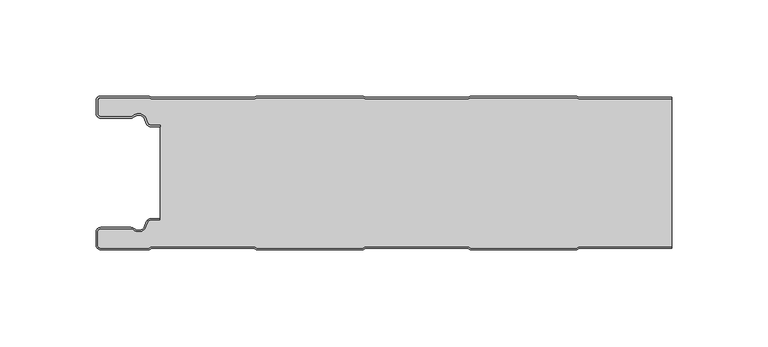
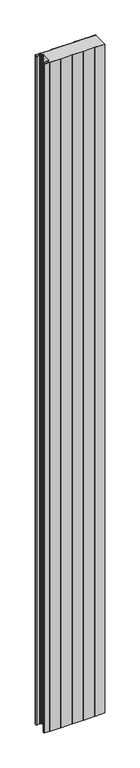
"""IFC4 building model written with IfcOpenShell, lengths in millimetres: plate geometry, ACH_Panel-Frigorífico_PUR-PIR : ACH_Panel-Frigorífico-PIR_80mm."""

from ifc_helpers import new_model, si_unit, point, frame_2d, origin, origin_with_axes, place, context, project, spatial, polyline, circle_curve, trimmed, segment, composite_curve, outline, extrude, source, transform, mapped, element, save


def plate_ee1a2d1a(model_context):
    return source(origin(), model_context, "Body", "SweptSolid", [
        extrude(outline(composite_curve([segment(trimmed(circle_curve(frame_2d((-147.483016, -9.0180361)), 2.50501), [point((-147.483016, -11.5230461))], [point((-149.9880261, -9.0180361))], False, "CARTESIAN"), True, "CONTINUOUS"), segment(polyline([(-149.9880261, -9.0180361), (-149.9880261, -2.50501)]), True, "CONTINUOUS"), segment(trimmed(circle_curve(frame_2d((-147.483016, -2.50501)), 2.50501), [point((-149.9880261, -2.50501))], [point((-147.483016, 0.0))], False, "CARTESIAN"), True, "CONTINUOUS"), segment(polyline([(-147.483016, 0.0), (-122.1983267, 0.0), (-121.016214, -0.6012024), (-67.6271727, -0.6012024), (-66.44506, 0.0), (-10.8656614, 0.0), (-9.6835487, -0.6012024), (43.7054926, -0.6012024), (44.8876053, 0.0), (100.4670039, 0.0), (101.6491166, -0.6012024), (149.9880261, -0.6012024), (149.9880261, -1.4012024), (101.4573702, -1.4012024), (100.2752576, -0.8), (45.0793517, -0.8), (43.897239, -1.4012024), (-9.8752951, -1.4012024), (-11.0574078, -0.8), (-66.2533137, -0.8), (-67.4354264, -1.4012024), (-121.2079604, -1.4012024), (-122.3900731, -0.8), (-147.483016, -0.8)]), True, "CONTINUOUS"), segment(trimmed(circle_curve(frame_2d((-147.483016, -2.50501)), 1.70501), [point((-147.483016, -0.8))], [point((-149.1880261, -2.50501))], True, "CARTESIAN"), True, "CONTINUOUS"), segment(polyline([(-149.1880261, -2.50501), (-149.1880261, -9.0180361)]), True, "CONTINUOUS"), segment(trimmed(circle_curve(frame_2d((-147.483016, -9.0180361)), 1.70501), [point((-149.1880261, -9.0180361))], [point((-147.483016, -10.7230461))], True, "CARTESIAN"), True, "CONTINUOUS"), segment(polyline([(-147.483016, -10.7230461), (-131.8053543, -10.7230461)]), True, "CONTINUOUS"), segment(trimmed(circle_curve(frame_2d((-131.8053543, -9.0180361)), 1.70501), [point((-131.8053543, -10.7230461))], [point((-130.6775962, -10.2967936))], True, "CARTESIAN"), True, "CONTINUOUS"), segment(trimmed(circle_curve(frame_2d((-127.8287742, -13.5270541)), 4.307014), [point((-130.6775962, -10.2967936))], [point((-123.7815049, -12.0539686))], False, "CARTESIAN"), True, "CONTINUOUS"), segment(polyline([(-123.7815049, -12.0539686), (-123.0330972, -14.1102019)]), True, "CONTINUOUS"), segment(trimmed(circle_curve(frame_2d((-121.4309118, -13.5270541)), 1.70501), [point((-123.0330972, -14.1102019))], [point((-121.4309118, -15.2320641))], True, "CARTESIAN"), True, "CONTINUOUS"), segment(polyline([(-121.4309118, -15.2320641), (-116.4208918, -15.2320641), (-116.4208918, -16.0320641), (-121.4309118, -16.0320641)]), True, "CONTINUOUS"), segment(trimmed(circle_curve(frame_2d((-121.4309118, -13.5270541)), 2.50501), [point((-121.4309118, -16.0320641))], [point((-123.7848513, -14.383818))], False, "CARTESIAN"), True, "CONTINUOUS"), segment(polyline([(-123.7848513, -14.383818), (-124.533259, -12.3275847)]), True, "CONTINUOUS"), segment(trimmed(circle_curve(frame_2d((-127.8287742, -13.5270541)), 3.507014), [point((-124.533259, -12.3275847))], [point((-130.1484459, -10.8967936))], True, "CARTESIAN"), True, "CONTINUOUS"), segment(trimmed(circle_curve(frame_2d((-131.8053543, -9.0180361)), 2.50501), [point((-130.1484459, -10.8967936))], [point((-131.8053543, -11.5230461))], False, "CARTESIAN"), True, "CONTINUOUS"), segment(polyline([(-131.8053543, -11.5230461), (-147.483016, -11.5230461)]), True, "CONTINUOUS")], self_intersect=False)), origin_with_axes(), (0.0, 0.0, 1.0), 3500.0),
        extrude(outline(composite_curve([segment(trimmed(circle_curve(frame_2d((-121.4309118, -13.5270541)), 1.70501), [point((-121.4309118, -15.2320641))], [point((-123.0330972, -14.1102019))], False, "CARTESIAN"), True, "CONTINUOUS"), segment(polyline([(-123.0330972, -14.1102019), (-123.7815049, -12.0539686)]), True, "CONTINUOUS"), segment(trimmed(circle_curve(frame_2d((-127.8287742, -13.5270541)), 4.307014), [point((-123.7815049, -12.0539686))], [point((-130.6775962, -10.2967936))], True, "CARTESIAN"), True, "CONTINUOUS"), segment(trimmed(circle_curve(frame_2d((-131.8053543, -9.0180361)), 1.70501), [point((-130.6775962, -10.2967936))], [point((-131.8053543, -10.7230461))], False, "CARTESIAN"), True, "CONTINUOUS"), segment(polyline([(-131.8053543, -10.7230461), (-147.483016, -10.7230461)]), True, "CONTINUOUS"), segment(trimmed(circle_curve(frame_2d((-147.483016, -9.0180361)), 1.70501), [point((-147.483016, -10.7230461))], [point((-149.1880261, -9.0180361))], False, "CARTESIAN"), True, "CONTINUOUS"), segment(polyline([(-149.1880261, -9.0180361), (-149.1880261, -2.50501)]), True, "CONTINUOUS"), segment(trimmed(circle_curve(frame_2d((-147.483016, -2.50501)), 1.70501), [point((-149.1880261, -2.50501))], [point((-147.483016, -0.8))], False, "CARTESIAN"), True, "CONTINUOUS"), segment(polyline([(-147.483016, -0.8), (-122.3900731, -0.8), (-121.2079604, -1.4012024), (-67.4354264, -1.4012024), (-66.2533137, -0.8), (-11.0574078, -0.8), (-9.8752951, -1.4012024), (43.897239, -1.4012024), (45.0793517, -0.8), (100.2752576, -0.8), (101.4573702, -1.4012024), (149.9880261, -1.4012024), (149.9880261, -78.5987976), (101.4573702, -78.5987976), (100.2752576, -79.2), (45.0793517, -79.2), (43.897239, -78.5987976), (-9.8752951, -78.5987976), (-11.0574078, -79.2), (-66.2533137, -79.2), (-67.4354264, -78.5987976), (-121.2079604, -78.5987976), (-122.3900731, -79.2), (-147.483016, -79.2)]), True, "CONTINUOUS"), segment(trimmed(circle_curve(frame_2d((-147.483016, -77.49499)), 1.70501), [point((-147.483016, -79.2))], [point((-149.1880261, -77.49499))], False, "CARTESIAN"), True, "CONTINUOUS"), segment(polyline([(-149.1880261, -77.49499), (-149.1880261, -70.9819639)]), True, "CONTINUOUS"), segment(trimmed(circle_curve(frame_2d((-147.483016, -70.9819639)), 1.70501), [point((-149.1880261, -70.9819639))], [point((-147.483016, -69.2769539))], False, "CARTESIAN"), True, "CONTINUOUS"), segment(polyline([(-147.483016, -69.2769539), (-131.8053543, -69.2769539)]), True, "CONTINUOUS"), segment(trimmed(circle_curve(frame_2d((-131.8053543, -70.9819639)), 1.70501), [point((-131.8053543, -69.2769539))], [point((-130.6775962, -69.7032064))], False, "CARTESIAN"), True, "CONTINUOUS"), segment(trimmed(circle_curve(frame_2d((-127.8287742, -66.4729459)), 4.307014), [point((-130.6775962, -69.7032064))], [point((-123.7815049, -67.9460314))], True, "CARTESIAN"), True, "CONTINUOUS"), segment(polyline([(-123.7815049, -67.9460314), (-123.0330972, -65.8897981)]), True, "CONTINUOUS"), segment(trimmed(circle_curve(frame_2d((-121.4309118, -66.4729459)), 1.70501), [point((-123.0330972, -65.8897981))], [point((-121.4309118, -64.7679359))], False, "CARTESIAN"), True, "CONTINUOUS"), segment(polyline([(-121.4309118, -64.7679359), (-116.4208918, -64.7679359), (-116.4208918, -15.2320641), (-121.4309118, -15.2320641)]), True, "CONTINUOUS")], self_intersect=False)), origin_with_axes(), (0.0, 0.0, 1.0), 3500.0),
        extrude(outline(composite_curve([segment(polyline([(-147.483016, -68.4769539), (-131.8053543, -68.4769539)]), True, "CONTINUOUS"), segment(trimmed(circle_curve(frame_2d((-131.8053543, -70.9819639)), 2.50501), [point((-131.8053543, -68.4769539))], [point((-130.1484459, -69.1032064))], False, "CARTESIAN"), True, "CONTINUOUS"), segment(trimmed(circle_curve(frame_2d((-127.8287742, -66.4729459)), 3.507014), [point((-130.1484459, -69.1032064))], [point((-124.533259, -67.6724153))], True, "CARTESIAN"), True, "CONTINUOUS"), segment(polyline([(-124.533259, -67.6724153), (-123.7848513, -65.616182)]), True, "CONTINUOUS"), segment(trimmed(circle_curve(frame_2d((-121.4309118, -66.4729459)), 2.50501), [point((-123.7848513, -65.616182))], [point((-121.4309118, -63.9679359))], False, "CARTESIAN"), True, "CONTINUOUS"), segment(polyline([(-121.4309118, -63.9679359), (-116.4208918, -63.9679359), (-116.4208918, -64.7679359), (-121.4309118, -64.7679359)]), True, "CONTINUOUS"), segment(trimmed(circle_curve(frame_2d((-121.4309118, -66.4729459)), 1.70501), [point((-121.4309118, -64.7679359))], [point((-123.0330972, -65.8897981))], True, "CARTESIAN"), True, "CONTINUOUS"), segment(polyline([(-123.0330972, -65.8897981), (-123.7815049, -67.9460314)]), True, "CONTINUOUS"), segment(trimmed(circle_curve(frame_2d((-127.8287742, -66.4729459)), 4.307014), [point((-123.7815049, -67.9460314))], [point((-130.6775962, -69.7032064))], False, "CARTESIAN"), True, "CONTINUOUS"), segment(trimmed(circle_curve(frame_2d((-131.8053543, -70.9819639)), 1.70501), [point((-130.6775962, -69.7032064))], [point((-131.8053543, -69.2769539))], True, "CARTESIAN"), True, "CONTINUOUS"), segment(polyline([(-131.8053543, -69.2769539), (-147.483016, -69.2769539)]), True, "CONTINUOUS"), segment(trimmed(circle_curve(frame_2d((-147.483016, -70.9819639)), 1.70501), [point((-147.483016, -69.2769539))], [point((-149.1880261, -70.9819639))], True, "CARTESIAN"), True, "CONTINUOUS"), segment(polyline([(-149.1880261, -70.9819639), (-149.1880261, -77.49499)]), True, "CONTINUOUS"), segment(trimmed(circle_curve(frame_2d((-147.483016, -77.49499)), 1.70501), [point((-149.1880261, -77.49499))], [point((-147.483016, -79.2))], True, "CARTESIAN"), True, "CONTINUOUS"), segment(polyline([(-147.483016, -79.2), (-122.3900731, -79.2), (-121.2079604, -78.5987976), (-67.4354264, -78.5987976), (-66.2533137, -79.2), (-11.0574078, -79.2), (-9.8752951, -78.5987976), (43.897239, -78.5987976), (45.0793517, -79.2), (100.2752576, -79.2), (101.4573702, -78.5987976), (149.9880261, -78.5987976), (149.9880261, -79.3987976), (101.6491166, -79.3987976), (100.4670039, -80.0), (44.8876053, -80.0), (43.7054926, -79.3987976), (-9.6835487, -79.3987976), (-10.8656614, -80.0), (-66.44506, -80.0), (-67.6271727, -79.3987976), (-121.016214, -79.3987976), (-122.1983267, -80.0), (-147.483016, -80.0)]), True, "CONTINUOUS"), segment(trimmed(circle_curve(frame_2d((-147.483016, -77.49499)), 2.50501), [point((-147.483016, -80.0))], [point((-149.9880261, -77.49499))], False, "CARTESIAN"), True, "CONTINUOUS"), segment(polyline([(-149.9880261, -77.49499), (-149.9880261, -70.9819639)]), True, "CONTINUOUS"), segment(trimmed(circle_curve(frame_2d((-147.483016, -70.9819639)), 2.50501), [point((-149.9880261, -70.9819639))], [point((-147.483016, -68.4769539))], False, "CARTESIAN"), True, "CONTINUOUS")], self_intersect=False)), origin_with_axes(), (0.0, 0.0, 1.0), 3500.0),
    ])


if __name__ == "__main__":
    model = new_model("IFC4")
    model_context = context("Model", 3, world=origin())
    ifc_project = project(units=[si_unit("LENGTHUNIT", "METRE", prefix="MILLI")], contexts=[model_context])
    site = spatial("IfcSite", under=ifc_project)
    building = spatial("IfcBuilding", under=site)
    placement = place(None, origin())
    plate_shape = plate_ee1a2d1a(model_context)
    element("IfcPlate", 1, ObjectType="ACH_Panel-Frigorífico_PUR-PIR : ACH_Panel-Frigorífico-PIR_80mm", at=placement, inside=building, context=model_context, shape_type="MappedRepresentation", body=[
        mapped(plate_shape, transform((0.0, 0.0, 0.0), x_axis=(1.0, 0.0, 0.0), y_axis=(0.0, 1.0, 0.0), z_axis=(0.0, 0.0, 1.0))),
    ])
    save(model, "model.ifc")
